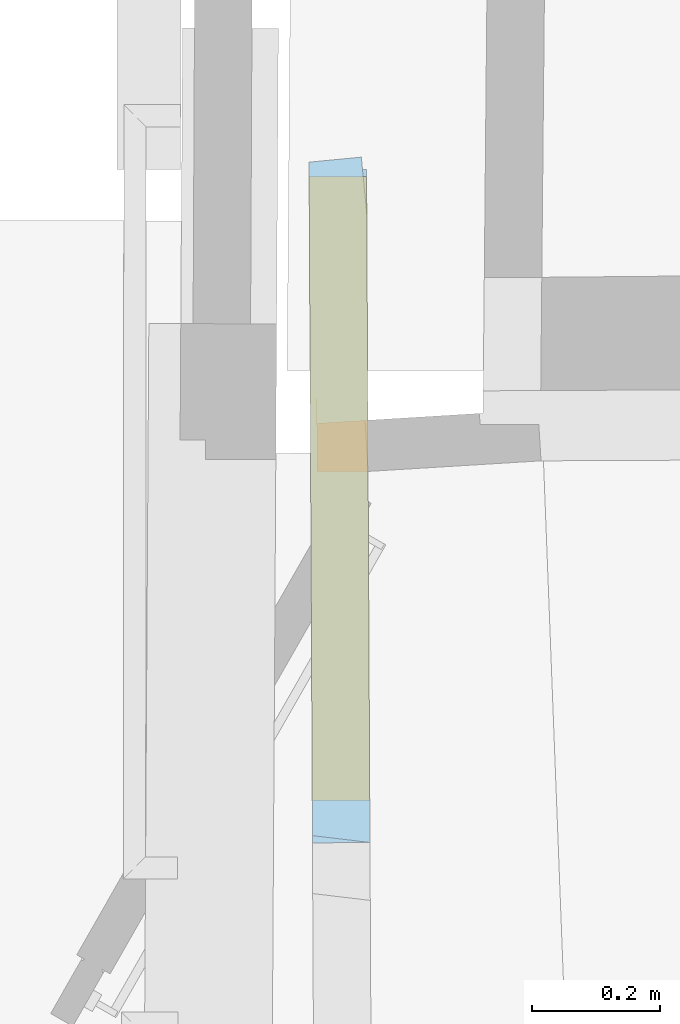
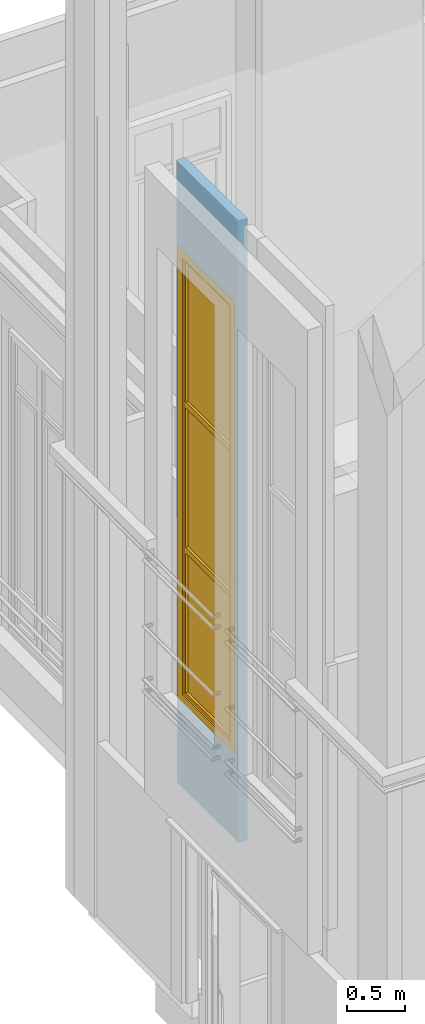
# One storey, part 47 of 97: 1 window, 1 opening, plus 1 element that does not belong to this part.
"""IFC2X3 building model written with IfcOpenShell, lengths in centimetres."""

import ifcopenshell
import ifcopenshell.guid

model = None  # the IFC model being written
_history = None  # IfcOwnerHistory: only IFC2X3 demands one
_inside = {}  # id of a spatial element -> (the spatial element, [elements in it])
_under = {}  # id of a project, library or spatial element -> (it, [spatial elements below it])
_declared = {}  # id of a project -> (the project, [libraries it declares])
_typed = {}  # id of a type object -> (the type object, [elements of that type])
_made_of = {}  # id of a material, layer set ... -> (it, [elements and type objects made of it])


def new_model(schema):
    """Start an empty IFC model of exactly this schema.

    Asked for "IFC4X3", IfcOpenShell would pick the latest addendum, in which some entities
    have other attributes; the version numbers below select the first issue.
    IFC2X3 requires an IfcOwnerHistory on every rooted entity: one is made here for all.
    """
    global model, _history
    if schema == "IFC4X3":
        model = ifcopenshell.file(schema_version=(4, 3, 0, 0))
    else:
        model = ifcopenshell.file(schema=schema)
    _inside.clear()
    _under.clear()
    _declared.clear()
    _typed.clear()
    _made_of.clear()
    _history = None
    if model.schema == "IFC2X3":
        org = make("IfcOrganization", Name="unknown")
        user = make(
            "IfcPersonAndOrganization",
            ThePerson=make("IfcPerson", FamilyName="unknown"),
            TheOrganization=org,
        )
        app = make(
            "IfcApplication",
            ApplicationDeveloper=org,
            Version="unknown",
            ApplicationFullName="unknown",
            ApplicationIdentifier="unknown",
        )
        _history = make(
            "IfcOwnerHistory",
            OwningUser=user,
            OwningApplication=app,
            ChangeAction="ADDED",
            CreationDate=0,
        )
    return model


def make(cls, **values):
    """One entity of the class cls with the attributes given. An attribute that is None is left unset."""
    return model.create_entity(
        cls, **{name: value for name, value in values.items() if value is not None}
    )


def entity(cls, *values):
    """Any entity or typed value of the class cls, its attributes in the order of the schema. None: left unset."""
    e = model.create_entity(cls)
    for i, value in enumerate(values):
        if value is not None:
            e[i] = value
    return e


def rooted(cls, **values):
    """An entity with a GlobalId (a new one), such as an element, a storey or a relation."""
    return make(cls, GlobalId=ifcopenshell.guid.new(), OwnerHistory=_history, **values)


def si_unit(unit_type, name, prefix=None):
    """IfcSIUnit, for example si_unit("LENGTHUNIT", "METRE", prefix="MILLI")."""
    return make("IfcSIUnit", UnitType=unit_type, Prefix=prefix, Name=name)


def converted_unit(unit_type, name, factor, base, dimensions=None, offset=None):
    """IfcConversionBasedUnit, such as the inch: factor (a typed value) times the base unit."""
    return make(
        "IfcConversionBasedUnit"
        if offset is None
        else "IfcConversionBasedUnitWithOffset",
        ConversionOffset=offset,
        Dimensions=None
        if dimensions is None
        else entity("IfcDimensionalExponents", *dimensions),
        UnitType=unit_type,
        Name=name,
        ConversionFactor=make(
            "IfcMeasureWithUnit", ValueComponent=factor, UnitComponent=base
        ),
    )


def assignment(units):
    """IfcUnitAssignment: the units of a project."""
    return None if units is None else make("IfcUnitAssignment", Units=units)


def point(xyz):
    """IfcCartesianPoint."""
    return None if xyz is None else make("IfcCartesianPoint", Coordinates=xyz)


def direction(xyz):
    """IfcDirection."""
    return None if xyz is None else make("IfcDirection", DirectionRatios=xyz)


def frame(location, z_axis=None, x_axis=None):
    """IfcAxis2Placement3D, a coordinate frame: its origin and axes. An axis left out is left unset."""
    return make(
        "IfcAxis2Placement3D",
        Location=point(location),
        Axis=direction(z_axis),
        RefDirection=direction(x_axis),
    )


def origin():
    """The frame at (0, 0, 0) with its axes left unset."""
    return frame((0.0, 0.0, 0.0))


def origin_with_axes():
    """The frame at (0, 0, 0) with the z axis (0, 0, 1) and the x axis (1, 0, 0) written out."""
    return frame((0.0, 0.0, 0.0), z_axis=(0.0, 0.0, 1.0), x_axis=(1.0, 0.0, 0.0))


def place(relative_to, where):
    """IfcLocalPlacement: puts the frame where relative to a parent placement (None: the world)."""
    return make(
        "IfcLocalPlacement", PlacementRelTo=relative_to, RelativePlacement=where
    )


def context(
    kind, dimensions, precision=None, world=None, true_north=None, identifier=None
):
    """IfcGeometricRepresentationContext, for example the 3D "Model" context."""
    return make(
        "IfcGeometricRepresentationContext",
        ContextIdentifier=identifier,
        ContextType=kind,
        CoordinateSpaceDimension=dimensions,
        Precision=precision,
        WorldCoordinateSystem=world,
        TrueNorth=true_north,
    )


def subcontext(parent, identifier, kind, view, scale=None):
    """IfcGeometricRepresentationSubContext, for example "Body" below "Model"."""
    return make(
        "IfcGeometricRepresentationSubContext",
        ContextIdentifier=identifier,
        ContextType=kind,
        ParentContext=parent,
        TargetScale=scale,
        TargetView=view,
    )


def project(units=None, contexts=None):
    """IfcProject with its units and contexts."""
    return rooted(
        "IfcProject",
        Name="project",
        RepresentationContexts=contexts,
        UnitsInContext=assignment(units),
    )


def spatial(cls, under=None, at=None, **own):
    """A site, building, storey or space (cls), placed at a placement, below another one or the project."""
    s = rooted(cls, ObjectPlacement=at, **own)
    if under is not None:
        _under.setdefault(under.id(), (under, []))[1].append(s)
    return s


def polyline(points):
    """IfcPolyline through the points."""
    return make("IfcPolyline", Points=[point(p) for p in points])


def outline(outer, holes=None, kind="AREA"):
    """IfcArbitraryClosedProfileDef: a profile drawn as a closed curve; with holes, ...WithVoids."""
    if holes is None:
        return make("IfcArbitraryClosedProfileDef", ProfileType=kind, OuterCurve=outer)
    return make(
        "IfcArbitraryProfileDefWithVoids",
        ProfileType=kind,
        OuterCurve=outer,
        InnerCurves=holes,
    )


def extrude(swept, where, along, depth):
    """IfcExtrudedAreaSolid: the profile swept, set in the frame where, extruded along a direction by depth."""
    return make(
        "IfcExtrudedAreaSolid",
        SweptArea=swept,
        Position=where,
        ExtrudedDirection=direction(along),
        Depth=depth,
    )


def clip(a, b, op="DIFFERENCE"):
    """IfcBooleanClippingResult: the solid a cut by the half space b."""
    return make(
        "IfcBooleanClippingResult", Operator=op, FirstOperand=a, SecondOperand=b
    )


def bounded_halfspace(plane, agree, where, boundary):
    """IfcPolygonalBoundedHalfSpace: a half space limited to a polygon's prism."""
    return make(
        "IfcPolygonalBoundedHalfSpace",
        BaseSurface=make("IfcPlane", Position=plane),
        AgreementFlag=agree,
        Position=where,
        PolygonalBoundary=boundary,
    )


def faces_of(points, faces, orient=None, outer=None):
    """IfcFace entities. A face is a list of loops; a loop is a list of indices into points, from 0.

    orient and outer hold one flag for each loop. By default every Orientation is true, the
    first loop of a face is its IfcFaceOuterBound and the others are IfcFaceBound.
    """
    made = []
    for i, loops in enumerate(faces):
        bounds = []
        for j, loop in enumerate(loops):
            is_outer = j == 0 if outer is None else outer[i][j]
            bounds.append(
                make(
                    "IfcFaceOuterBound" if is_outer else "IfcFaceBound",
                    Bound=make("IfcPolyLoop", Polygon=[points[k] for k in loop]),
                    Orientation=True if orient is None else orient[i][j],
                )
            )
        made.append(make("IfcFace", Bounds=bounds))
    return made


def faceted_brep(points, faces, orient=None, outer=None, voids=None):
    """IfcFacetedBrep: a solid bounded by flat faces; with voids (closed shells), ...WithVoids."""
    shared = [point(p) for p in points]
    hull = make("IfcClosedShell", CfsFaces=faces_of(shared, faces, orient, outer))
    if voids is None:
        return make("IfcFacetedBrep", Outer=hull)
    return make(
        "IfcFacetedBrepWithVoids",
        Outer=hull,
        Voids=[
            make(cls, CfsFaces=faces_of(shared, fs, o, b)) for cls, fs, o, b in voids
        ],
    )


def shape(context_of_items, identifier, shape_type, items):
    """IfcShapeRepresentation: the items that make up one representation, for example the "Body"."""
    return make(
        "IfcShapeRepresentation",
        ContextOfItems=context_of_items,
        RepresentationIdentifier=identifier,
        RepresentationType=shape_type,
        Items=items,
    )


def source(mapping_origin, context_of_items, identifier, shape_type, items):
    """IfcRepresentationMap: a shape defined once, which mapped items show again and again."""
    return make(
        "IfcRepresentationMap",
        MappingOrigin=mapping_origin,
        MappedRepresentation=shape(context_of_items, identifier, shape_type, items),
    )


def transform(
    local_origin,
    x_axis=None,
    y_axis=None,
    z_axis=None,
    scale=None,
    scale2=None,
    scale3=None,
    uniform=True,
):
    """IfcCartesianTransformationOperator3D, or its non-uniform kind. x_axis, y_axis, z_axis: its Axis1, 2, 3."""
    if uniform:
        return make(
            "IfcCartesianTransformationOperator3D",
            Axis1=direction(x_axis),
            Axis2=direction(y_axis),
            LocalOrigin=point(local_origin),
            Scale=scale,
            Axis3=direction(z_axis),
        )
    return make(
        "IfcCartesianTransformationOperator3DnonUniform",
        Axis1=direction(x_axis),
        Axis2=direction(y_axis),
        LocalOrigin=point(local_origin),
        Scale=scale,
        Axis3=direction(z_axis),
        Scale2=scale2,
        Scale3=scale3,
    )


def mapped(mapping_source, mapping_target):
    """IfcMappedItem: shows the shape of a source again, moved by a transform."""
    return make(
        "IfcMappedItem", MappingSource=mapping_source, MappingTarget=mapping_target
    )


def material(Name=None, Category=None):
    """IfcMaterial."""
    return make("IfcMaterial", Name=Name, Category=Category)


def material_list(materials):
    """IfcMaterialList."""
    return make("IfcMaterialList", Materials=materials)


def layer(
    of_material, thickness, ventilated=None, Name=None, Category=None, Priority=None
):
    """IfcMaterialLayer: one layer of a wall or slab, of a material (None: an air gap)."""
    return make(
        "IfcMaterialLayer",
        Material=of_material,
        LayerThickness=thickness,
        IsVentilated=ventilated,
        Name=Name,
        Category=Category,
        Priority=Priority,
    )


def layer_set(layers, Name=None):
    """IfcMaterialLayerSet."""
    return make("IfcMaterialLayerSet", MaterialLayers=layers, LayerSetName=Name)


def layer_usage(for_layer_set, set_direction, sense, offset, extent=None):
    """IfcMaterialLayerSetUsage: how a layer set lies in its element."""
    return make(
        "IfcMaterialLayerSetUsage",
        ForLayerSet=for_layer_set,
        LayerSetDirection=set_direction,
        DirectionSense=sense,
        OffsetFromReferenceLine=offset,
        ReferenceExtent=extent,
    )


def made_of(thing, what):
    """Note that an element or type object is made of a material, layer set ...; save() writes the relation."""
    if what is not None:
        _made_of.setdefault(what.id(), (what, []))[1].append(thing)
    return thing


def type_object(cls, material=None, **own):
    """A type object (cls), such as IfcWallType, which elements share."""
    return made_of(rooted(cls, **own), material)


def element(
    cls,
    number,
    at=None,
    inside=None,
    cuts=None,
    type_object=None,
    material=None,
    context=None,
    identifier="Body",
    shape_type=None,
    held_by="IfcProductDefinitionShape",
    body=None,
    shapes=None,
    **own,
):
    """One element of the class cls, such as IfcWall. Its Tag is "e" and its number.

    at: its placement. inside: the storey or other place that contains it. cuts: it is an
    opening in that element (IfcRelVoidsElement). A single representation is given by context,
    identifier, shape_type and body (its items); several are given by shapes. held_by: the class
    of the entity that holds the representations. save() writes the other relations.
    """
    e = rooted(cls, Tag="e%d" % number, ObjectPlacement=at, **own)
    if body is not None:
        shapes = [shape(context, identifier, shape_type, body)]
    if shapes is not None:
        e.Representation = make(held_by, Representations=shapes)
    if inside is not None:
        _inside.setdefault(inside.id(), (inside, []))[1].append(e)
    if cuts is not None:
        rooted(
            "IfcRelVoidsElement", RelatingBuildingElement=cuts, RelatedOpeningElement=e
        )
    if type_object is not None:
        _typed.setdefault(type_object.id(), (type_object, []))[1].append(e)
    return made_of(e, material)


def fill(opening, filler):
    """IfcRelFillsElement: the door or window that sits in an opening."""
    return rooted(
        "IfcRelFillsElement",
        RelatingOpeningElement=opening,
        RelatedBuildingElement=filler,
    )


def aggregate(whole, parts):
    """IfcRelAggregates: a whole, such as a stair, and the parts it consists of."""
    return rooted("IfcRelAggregates", RelatingObject=whole, RelatedObjects=parts)


def save(model, path):
    """Write the relations noted so far, then the file.

    IfcRelAggregates (storeys below a building ...), IfcRelContainedInSpatialStructure (elements
    in a storey), IfcRelDefinesByType, IfcRelAssociatesMaterial and IfcRelDeclares: one each for
    every whole, place, type object, material and project.
    """
    for whole, parts in _under.values():
        aggregate(whole, parts)
    for where, things in _inside.values():
        rooted(
            "IfcRelContainedInSpatialStructure",
            RelatedElements=things,
            RelatingStructure=where,
        )
    for kind, things in _typed.values():
        rooted("IfcRelDefinesByType", RelatedObjects=things, RelatingType=kind)
    for what, things in _made_of.values():
        rooted("IfcRelAssociatesMaterial", RelatedObjects=things, RelatingMaterial=what)
    for by, libraries in _declared.values():
        rooted("IfcRelDeclares", RelatingContext=by, RelatedDefinitions=libraries)
    model.write(path)


model = new_model("IFC2X3")

# Units and contexts
model_context = context("Model", 3, precision=0.0001, world=origin(), true_north=direction((0.225632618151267, 0.974212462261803, 0.0)))
body_context = subcontext(model_context, "Body", "Model", "MODEL_VIEW")
footprint_context = subcontext(model_context, "FootPrint", "Model", "MODEL_VIEW")
profile_context = subcontext(model_context, "Profile", "Model", "MODEL_VIEW")
ifc_project = project(units=[si_unit("LENGTHUNIT", "METRE", prefix="CENTI"), si_unit("AREAUNIT", "SQUARE_METRE", prefix="CENTI"), si_unit("VOLUMEUNIT", "CUBIC_METRE", prefix="CENTI"), converted_unit("PLANEANGLEUNIT", "DEGREE", entity("IfcRatioMeasure", 0.0174532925), si_unit("PLANEANGLEUNIT", "RADIAN"), dimensions=[0, 0, 0, 0, 0, 0, 0])], contexts=[model_context])

# Site, building, storey
site_placement = place(None, origin_with_axes())
site = spatial("IfcSite", under=ifc_project, at=site_placement, Name="Default Site", CompositionType="ELEMENT")
building_placement = place(site_placement, origin_with_axes())
building = spatial("IfcBuilding", under=site, at=building_placement, Name="Default Building", CompositionType="ELEMENT")
storey_placement = place(building_placement, origin_with_axes())
storey = spatial("IfcBuildingStorey", under=building, at=storey_placement, Name="Rez-de-chaussée", CompositionType="ELEMENT", Elevation=0.0)

# Wall, opening, window
ifc_material_1 = material(Name="<aucun>")
ifc_layer = layer(ifc_material_1, 9.0)
ifc_layer_set = layer_set([ifc_layer], Name="default")
ifc_layer_usage = layer_usage(ifc_layer_set, "AXIS2", "POSITIVE", -4.5)
wall_type = type_object("IfcWallType", Name="default 90", PredefinedType="NOTDEFINED", material=ifc_layer_set)
wall_placement = place(storey_placement, frame((-1335.40995484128, -49.2007279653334, 200.0), z_axis=(0.0, 0.0, 1.0), x_axis=(-0.00503871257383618, 0.999987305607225, 0.0)))
wall = element("IfcWallStandardCase", 1, at=wall_placement, inside=storey, type_object=wall_type, material=ifc_layer_usage, Name="Enveloppe 954645", context=body_context, shape_type="Clipping", body=[
    clip(clip(clip(extrude(outline(polyline([(106.525951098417, 4.50000000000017), (2.22044604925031e-14, 4.49999999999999), (1.66533453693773e-14, -4.50000000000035), (105.301813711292, -4.49999999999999), (105.301813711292, -3.86412905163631), (107.270035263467, -3.68520594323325), (106.525951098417, 4.50000000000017)])), origin_with_axes(), (0.0, 0.0, 1.0), 653.910374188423), bounded_halfspace(frame((107.270035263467, -3.68520594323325, 277.808208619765), z_axis=(0.0, 0.0, 1.0), x_axis=(-0.995893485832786, -0.090532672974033, 0.0)), True, frame((107.270035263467, -3.68520594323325, 277.808208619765), z_axis=(0.0, 0.0, 1.0), x_axis=(1.0, 0.0, 0.0)), polyline([(-1.96822155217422, -0.178923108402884), (-1.96822155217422, 8.18520594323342), (-0.744084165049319, 8.18520594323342), (4.44089209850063e-14, 0.0), (-1.96822155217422, -0.178923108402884)]))), bounded_halfspace(frame((0.0159313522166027, -4.50000000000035, 277.808208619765), z_axis=(0.0, 0.0, -1.0), x_axis=(0.123055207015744, 0.992399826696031, 0.0)), True, frame((0.0159313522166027, -4.50000000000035, 277.808208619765), z_axis=(0.0, 0.0, 1.0), x_axis=(1.0, 0.0, 0.0)), polyline([(-0.0159313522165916, 0.0), (0.0, 0.0), (1.1159784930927, 8.99999999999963), (-0.0159313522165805, 9.00000000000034), (-0.0159313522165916, 0.0)]))), bounded_halfspace(frame((98.3069938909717, -4.49999999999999, 277.808208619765), z_axis=(0.0, 0.0, -1.0), x_axis=(1.0, 1.06876313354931e-14, 0.0)), True, frame((98.3069938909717, -4.49999999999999, 277.808208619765), z_axis=(0.0, 0.0, 1.0), x_axis=(1.0, 0.0, 0.0)), polyline([(3.33066907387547e-14, 0.0), (6.99481982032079, 0.0), (6.99481982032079, 0.635870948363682), (3.33066907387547e-14, 0.0)]))),
])
opening_placement = place(wall_placement, frame((6.60511947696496, 0.0, 90.0000000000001), z_axis=(0.0, 0.0, 1.0), x_axis=(-1.0, -3.80771802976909e-16, 0.0)))
cartesian_point_1 = entity("IfcCartesianPoint", [-2.77555756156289e-14, 0.0, 475.0])
cartesian_point_2 = entity("IfcCartesianPoint", [-97.6543004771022, -4.50000000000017])
opening = element("IfcOpeningElement", 2, at=opening_placement, cuts=wall, Name="4294966509_11", ObjectType="Opening", shapes=[
    shape(body_context, "Body", "SweptSolid", [extrude(outline(polyline([(3.33066907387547e-14, 475.0), (0.0, 4.44089209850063e-14), (97.6543004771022, 4.44089209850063e-14), (97.6543004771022, 475.0), (3.33066907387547e-14, 475.0)])), frame((0.0, -14.5000000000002, 0.0), z_axis=(0.0, 1.0, 0.0), x_axis=(-1.0, 0.0, 0.0)), (0.0, 0.0, 1.0), 29.0000000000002)]),
    shape(profile_context, "Profile", "GeometricCurveSet", [entity("IfcGeometricCurveSet", [entity("IfcPolyline", [cartesian_point_1, entity("IfcCartesianPoint", [0.0, 0.0, 4.44089209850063e-14]), entity("IfcCartesianPoint", [-97.6543004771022, 0.0, 4.44089209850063e-14]), entity("IfcCartesianPoint", [-97.6543004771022, 0.0, 475.0]), cartesian_point_1])])]),
    shape(footprint_context, "FootPrint", "GeometricCurveSet", [entity("IfcGeometricCurveSet", [entity("IfcPolyline", [cartesian_point_2, entity("IfcCartesianPoint", [1.11022302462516e-14, -4.50000000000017]), entity("IfcCartesianPoint", [5.55111512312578e-15, 4.49999999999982]), entity("IfcCartesianPoint", [-97.6543004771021, 4.49999999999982]), cartesian_point_2])])]),
])
ifc_material_2 = material(Name="Transparent")
ifc_material_3 = material(Name="Blanc trafic")
ifc_material_list = material_list([ifc_material_2, ifc_material_3])
window_style = type_object("IfcWindowStyle", Name="Fn 1 montant fixe 2 vitres ép 90", ConstructionType="NOTDEFINED", OperationType="TRIPLE_PANEL_HORIZONTAL", ParameterTakesPrecedence=True, Sizeable=False, material=ifc_material_list)
shared_shape = source(origin_with_axes(), body_context, "Body", "Brep", [
    faceted_brep([(-40.8271491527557, 467.000007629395, -4.50000017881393), (-40.8271491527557, 467.000007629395, 4.50000017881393), (-40.8271491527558, 7.99999982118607, 4.50000017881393), (-40.8271491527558, 7.99999982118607, -4.50000017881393), (-48.8271504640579, 475.0, 4.50000017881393), (-48.8271504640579, 2.22044604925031e-14, 4.50000017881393), (-40.8271491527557, 7.99999982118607, 4.50000017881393), (-48.8271504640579, 475.0, -4.50000017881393), (-48.827150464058, 2.22044604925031e-14, -4.50000017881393), (-48.827150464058, 2.22044604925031e-14, 4.50000017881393), (-40.8271491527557, 7.99999982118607, -4.50000017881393), (-48.8271504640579, 2.22044604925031e-14, -4.50000017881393), (40.8271491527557, 7.99999982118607, 4.50000017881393), (40.8271491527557, 7.99999982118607, -4.50000017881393), (48.8271504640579, 2.22044604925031e-14, 4.50000017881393), (48.8271504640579, 2.22044604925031e-14, -4.50000017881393), (40.8271491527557, 467.000007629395, 4.50000017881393), (40.8271491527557, 467.000007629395, -4.50000017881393), (48.8271504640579, 475.0, 4.50000017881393), (48.8271504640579, 475.0, -4.50000017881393)], [[[0, 1, 2, 3]], [[1, 4, 5, 6]], [[4, 7, 8, 9]], [[7, 0, 10, 11]], [[10, 6, 12, 13]], [[6, 5, 14, 12]], [[5, 11, 15, 14]], [[11, 10, 13, 15]], [[13, 12, 16, 17]], [[12, 14, 18, 16]], [[14, 15, 19, 18]], [[15, 13, 17, 19]], [[17, 16, 1, 0]], [[16, 18, 4, 1]], [[18, 19, 7, 4]], [[19, 17, 0, 7]]]),
    faceted_brep([(-37.8271490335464, 463.99998664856, -2.99999993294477), (-37.8271490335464, 463.99998664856, 2.99999993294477), (-37.8271490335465, 317.000007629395, 2.99999993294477), (-37.8271490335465, 317.000007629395, -2.99999993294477), (-40.8271491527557, 467.000007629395, 2.99999993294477), (-40.8271491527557, 314.000010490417, 2.99999993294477), (-37.8271490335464, 317.000007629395, 2.99999993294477), (-40.8271491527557, 467.000007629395, -2.99999993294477), (-40.8271491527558, 314.000010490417, -2.99999993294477), (-40.8271491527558, 314.000010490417, 2.99999993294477), (-37.8271490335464, 317.000007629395, -2.99999993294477), (-40.8271491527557, 314.000010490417, -2.99999993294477), (37.8271490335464, 317.000007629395, 2.99999993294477), (37.8271490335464, 317.000007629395, -2.99999993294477), (40.8271491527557, 314.000010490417, 2.99999993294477), (40.8271491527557, 314.000010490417, -2.99999993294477), (37.8271490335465, 463.99998664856, 2.99999993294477), (37.8271490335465, 463.99998664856, -2.99999993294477), (40.8271491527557, 467.000007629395, 2.99999993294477), (37.8271490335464, 463.99998664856, 2.99999993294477), (40.8271491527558, 467.000007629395, -2.99999993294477), (40.8271491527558, 467.000007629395, 2.99999993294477), (37.8271490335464, 463.99998664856, -2.99999993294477), (40.8271491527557, 467.000007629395, -2.99999993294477)], [[[0, 1, 2, 3]], [[1, 4, 5, 6]], [[4, 7, 8, 9]], [[7, 0, 10, 11]], [[10, 6, 12, 13]], [[6, 5, 14, 12]], [[5, 11, 15, 14]], [[11, 10, 13, 15]], [[13, 12, 16, 17]], [[12, 14, 18, 19]], [[14, 15, 20, 21]], [[15, 13, 22, 23]], [[22, 19, 1, 0]], [[19, 18, 4, 1]], [[18, 23, 7, 4]], [[23, 22, 0, 7]]]),
    faceted_brep([(37.8271490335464, 463.99998664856, -0.499999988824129), (37.8271490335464, 317.000007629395, -0.499999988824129), (-37.8271490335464, 317.000007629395, -0.499999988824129), (-37.8271490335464, 463.99998664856, -0.499999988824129), (-37.8271490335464, 463.99998664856, 0.499999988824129), (-37.8271490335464, 317.000007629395, 0.499999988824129), (37.8271490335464, 317.000007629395, 0.499999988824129), (37.8271490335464, 463.99998664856, 0.499999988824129), (-37.8271490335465, 317.000007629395, -0.499999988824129), (-37.8271490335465, 317.000007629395, 0.499999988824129), (37.8271490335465, 463.99998664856, -0.499999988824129), (37.8271490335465, 463.99998664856, 0.499999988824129)], [[[0, 1, 2, 3]], [[4, 5, 6, 7]], [[3, 8, 9, 4]], [[2, 1, 6, 5]], [[1, 10, 11, 6]], [[0, 3, 4, 7]]]),
    faceted_brep([(-37.8271490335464, 310.999989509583, -2.99999993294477), (-37.8271490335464, 310.999989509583, 2.99999993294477), (-37.8271490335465, 163.999998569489, 2.99999993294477), (-37.8271490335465, 163.999998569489, -2.99999993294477), (-40.8271491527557, 314.000010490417, 2.99999993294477), (-40.8271491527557, 161.000001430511, 2.99999993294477), (-37.8271490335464, 163.999998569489, 2.99999993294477), (-40.8271491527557, 314.000010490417, -2.99999993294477), (-40.8271491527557, 161.000001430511, -2.99999993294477), (-37.8271490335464, 163.999998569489, -2.99999993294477), (37.8271490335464, 163.999998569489, 2.99999993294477), (37.8271490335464, 163.999998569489, -2.99999993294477), (40.8271491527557, 161.000001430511, 2.99999993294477), (40.8271491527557, 161.000001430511, -2.99999993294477), (37.8271490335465, 310.999989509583, 2.99999993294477), (37.8271490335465, 310.999989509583, -2.99999993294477), (40.8271491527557, 314.000010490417, 2.99999993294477), (37.8271490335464, 310.999989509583, 2.99999993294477), (40.8271491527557, 314.000010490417, -2.99999993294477), (37.8271490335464, 310.999989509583, -2.99999993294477)], [[[0, 1, 2, 3]], [[1, 4, 5, 6]], [[4, 7, 8, 5]], [[7, 0, 9, 8]], [[9, 6, 10, 11]], [[6, 5, 12, 10]], [[5, 8, 13, 12]], [[8, 9, 11, 13]], [[11, 10, 14, 15]], [[10, 12, 16, 17]], [[12, 13, 18, 16]], [[13, 11, 19, 18]], [[19, 17, 1, 0]], [[17, 16, 4, 1]], [[16, 18, 7, 4]], [[18, 19, 0, 7]]]),
    faceted_brep([(37.8271490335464, 310.999989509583, -0.499999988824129), (37.8271490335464, 163.999998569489, -0.499999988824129), (-37.8271490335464, 163.999998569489, -0.499999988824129), (-37.8271490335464, 310.999989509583, -0.499999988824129), (-37.8271490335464, 310.999989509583, 0.499999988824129), (-37.8271490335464, 163.999998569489, 0.499999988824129), (37.8271490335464, 163.999998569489, 0.499999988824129), (37.8271490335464, 310.999989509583, 0.499999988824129), (-37.8271490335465, 163.999998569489, -0.499999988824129), (-37.8271490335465, 163.999998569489, 0.499999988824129)], [[[0, 1, 2, 3]], [[4, 5, 6, 7]], [[3, 8, 9, 4]], [[2, 1, 6, 5]], [[1, 0, 7, 6]], [[0, 3, 4, 7]]]),
    faceted_brep([(-37.8271490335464, 158.000004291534, -2.99999993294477), (-37.8271490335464, 158.000004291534, 2.99999993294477), (-37.8271490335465, 10.9999999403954, 2.99999993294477), (-37.8271490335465, 10.9999999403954, -2.99999993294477), (-40.8271491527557, 161.000001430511, 2.99999993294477), (-40.8271491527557, 7.99999982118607, 2.99999993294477), (-37.8271490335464, 10.9999999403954, 2.99999993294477), (-40.8271491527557, 161.000001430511, -2.99999993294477), (-40.8271491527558, 7.99999982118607, -2.99999993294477), (-40.8271491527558, 7.99999982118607, 2.99999993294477), (-37.8271490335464, 10.9999999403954, -2.99999993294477), (-40.8271491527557, 7.99999982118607, -2.99999993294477), (37.8271490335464, 10.9999999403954, 2.99999993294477), (37.8271490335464, 10.9999999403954, -2.99999993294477), (40.8271491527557, 7.99999982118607, 2.99999993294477), (40.8271491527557, 7.99999982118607, -2.99999993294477), (37.8271490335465, 158.000004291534, 2.99999993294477), (37.8271490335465, 158.000004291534, -2.99999993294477), (40.8271491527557, 161.000001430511, 2.99999993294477), (37.8271490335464, 158.000004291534, 2.99999993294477), (40.8271491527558, 161.000001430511, -2.99999993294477), (40.8271491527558, 161.000001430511, 2.99999993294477), (37.8271490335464, 158.000004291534, -2.99999993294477), (40.8271491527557, 161.000001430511, -2.99999993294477)], [[[0, 1, 2, 3]], [[1, 4, 5, 6]], [[4, 7, 8, 9]], [[7, 0, 10, 11]], [[10, 6, 12, 13]], [[6, 5, 14, 12]], [[5, 11, 15, 14]], [[11, 10, 13, 15]], [[13, 12, 16, 17]], [[12, 14, 18, 19]], [[14, 15, 20, 21]], [[15, 13, 22, 23]], [[22, 19, 1, 0]], [[19, 18, 4, 1]], [[18, 23, 7, 4]], [[23, 22, 0, 7]]]),
    faceted_brep([(37.8271490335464, 158.000004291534, -0.499999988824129), (37.8271490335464, 10.9999999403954, -0.499999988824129), (-37.8271490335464, 10.9999999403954, -0.499999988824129), (-37.8271490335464, 158.000004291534, -0.499999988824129), (-37.8271490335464, 158.000004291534, 0.499999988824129), (-37.8271490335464, 10.9999999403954, 0.499999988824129), (37.8271490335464, 10.9999999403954, 0.499999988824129), (37.8271490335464, 158.000004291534, 0.499999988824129), (-37.8271490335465, 10.9999999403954, -0.499999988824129), (-37.8271490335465, 10.9999999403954, 0.499999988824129), (37.8271490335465, 158.000004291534, -0.499999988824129), (37.8271490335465, 158.000004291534, 0.499999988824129)], [[[0, 1, 2, 3]], [[4, 5, 6, 7]], [[3, 8, 9, 4]], [[2, 1, 6, 5]], [[1, 10, 11, 6]], [[0, 3, 4, 7]]]),
])
window_placement = place(opening_placement, frame((-97.6543004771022, -4.49999999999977, 5.6843418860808e-14), z_axis=(0.0, 0.0, 1.0), x_axis=(1.0, 0.0, 0.0)))
window = element("IfcWindow", 3, at=window_placement, inside=storey, type_object=window_style, material=ifc_material_list, Name="Fenêtre 955884", OverallHeight=475.0, OverallWidth=97.6543004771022, context=body_context, shape_type="MappedRepresentation", body=[
    mapped(shared_shape, transform((48.8271502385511, 4.50000000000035, -4.44089209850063e-14), x_axis=(-1.0, 0.0, 0.0), y_axis=(0.0, 0.0, 1.0), z_axis=(0.0, 1.0, 0.0), scale=1.0, scale2=1.0, scale3=1.0, uniform=False)),
])
fill(opening, window)

save(model, "model.ifc")
